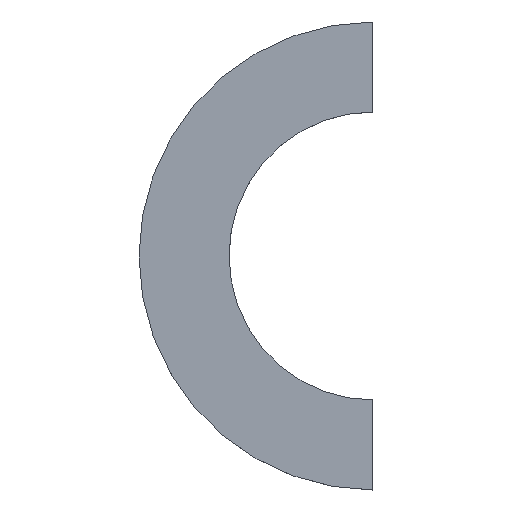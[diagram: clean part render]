
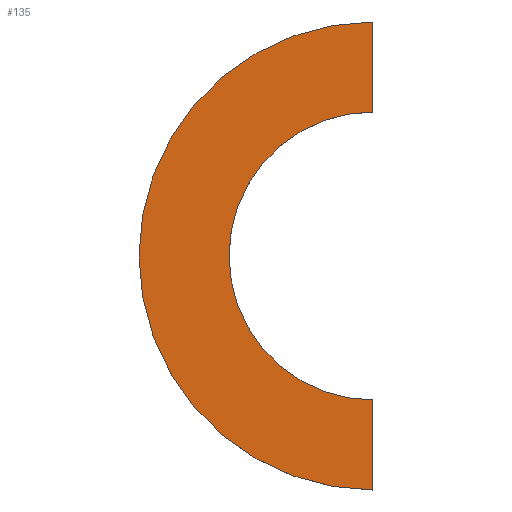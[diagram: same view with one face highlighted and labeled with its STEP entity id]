
A CAD part, top view. The second image highlights one B-rep face of the part: STEP entity #135.
In plain terms, the highlighted planar face has unit normal (0, 0, 1).
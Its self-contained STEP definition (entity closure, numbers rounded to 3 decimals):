
#21 = EDGE_CURVE('',#22,#24,#26,.T.);
#22 = VERTEX_POINT('',#23);
#23 = CARTESIAN_POINT('',(0.,4.9,6.9));
#24 = VERTEX_POINT('',#25);
#25 = CARTESIAN_POINT('',(0.,-4.9,6.9));
#26 = SURFACE_CURVE('',#27,(#32,#44),.PCURVE_S1.);
#27 = CIRCLE('',#28,4.9);
#28 = AXIS2_PLACEMENT_3D('',#29,#30,#31);
#29 = CARTESIAN_POINT('',(0.,0.,6.9));
#30 = DIRECTION('',(0.,0.,1.));
#31 = DIRECTION('',(1.,0.,-0.));
#32 = PCURVE('',#33,#38);
#33 = CYLINDRICAL_SURFACE('',#34,4.9);
#34 = AXIS2_PLACEMENT_3D('',#35,#36,#37);
#35 = CARTESIAN_POINT('',(0.,0.,6.5));
#36 = DIRECTION('',(0.,0.,1.));
#37 = DIRECTION('',(1.,0.,-0.));
#38 = DEFINITIONAL_REPRESENTATION('',(#39),#43);
#39 = LINE('',#40,#41);
#40 = CARTESIAN_POINT('',(0.,0.4));
#41 = VECTOR('',#42,1.);
#42 = DIRECTION('',(1.,0.));
#43 = ( GEOMETRIC_REPRESENTATION_CONTEXT(2) 
PARAMETRIC_REPRESENTATION_CONTEXT() REPRESENTATION_CONTEXT('2D SPACE',''
  ) );
#44 = PCURVE('',#45,#50);
#45 = PLANE('',#46);
#46 = AXIS2_PLACEMENT_3D('',#47,#48,#49);
#47 = CARTESIAN_POINT('',(0.,0.,6.9));
#48 = DIRECTION('',(0.,0.,1.));
#49 = DIRECTION('',(1.,0.,-0.));
#50 = DEFINITIONAL_REPRESENTATION('',(#51),#55);
#51 = CIRCLE('',#52,4.9);
#52 = AXIS2_PLACEMENT_2D('',#53,#54);
#53 = CARTESIAN_POINT('',(0.,0.));
#54 = DIRECTION('',(1.,0.));
#55 = ( GEOMETRIC_REPRESENTATION_CONTEXT(2) 
PARAMETRIC_REPRESENTATION_CONTEXT() REPRESENTATION_CONTEXT('2D SPACE',''
  ) );
#72 = PLANE('',#73);
#73 = AXIS2_PLACEMENT_3D('',#74,#75,#76);
#74 = CARTESIAN_POINT('',(0.,-50.,-50.));
#75 = DIRECTION('',(1.,0.,0.));
#76 = DIRECTION('',(0.,0.,1.));
#125 = PLANE('',#126);
#126 = AXIS2_PLACEMENT_3D('',#127,#128,#129);
#127 = CARTESIAN_POINT('',(0.,-50.,-50.));
#128 = DIRECTION('',(1.,0.,0.));
#129 = DIRECTION('',(0.,0.,1.));
#135 = ADVANCED_FACE('',(#136),#45,.T.);
#136 = FACE_BOUND('',#137,.T.);
#137 = EDGE_LOOP('',(#138,#159,#160,#181));
#138 = ORIENTED_EDGE('',*,*,#139,.T.);
#139 = EDGE_CURVE('',#140,#22,#142,.T.);
#140 = VERTEX_POINT('',#141);
#141 = CARTESIAN_POINT('',(0.,3.015,6.9));
#142 = SURFACE_CURVE('',#143,(#147,#153),.PCURVE_S1.);
#143 = LINE('',#144,#145);
#144 = CARTESIAN_POINT('',(0.,-25.,6.9));
#145 = VECTOR('',#146,1.);
#146 = DIRECTION('',(0.,1.,0.));
#147 = PCURVE('',#45,#148);
#148 = DEFINITIONAL_REPRESENTATION('',(#149),#152);
#149 = B_SPLINE_CURVE_WITH_KNOTS('',1,(#150,#151),.UNSPECIFIED.,.F.,.F.,
  (2,2),(20.1,29.9),.PIECEWISE_BEZIER_KNOTS.);
#150 = CARTESIAN_POINT('',(0.,-4.9));
#151 = CARTESIAN_POINT('',(0.,4.9));
#152 = ( GEOMETRIC_REPRESENTATION_CONTEXT(2) 
PARAMETRIC_REPRESENTATION_CONTEXT() REPRESENTATION_CONTEXT('2D SPACE',''
  ) );
#153 = PCURVE('',#72,#154);
#154 = DEFINITIONAL_REPRESENTATION('',(#155),#158);
#155 = B_SPLINE_CURVE_WITH_KNOTS('',1,(#156,#157),.UNSPECIFIED.,.F.,.F.,
  (2,2),(20.1,29.9),.PIECEWISE_BEZIER_KNOTS.);
#156 = CARTESIAN_POINT('',(56.9,-45.1));
#157 = CARTESIAN_POINT('',(56.9,-54.9));
#158 = ( GEOMETRIC_REPRESENTATION_CONTEXT(2) 
PARAMETRIC_REPRESENTATION_CONTEXT() REPRESENTATION_CONTEXT('2D SPACE',''
  ) );
#159 = ORIENTED_EDGE('',*,*,#21,.T.);
#160 = ORIENTED_EDGE('',*,*,#161,.T.);
#161 = EDGE_CURVE('',#24,#162,#164,.T.);
#162 = VERTEX_POINT('',#163);
#163 = CARTESIAN_POINT('',(0.,-3.015,6.9));
#164 = SURFACE_CURVE('',#165,(#169,#175),.PCURVE_S1.);
#165 = LINE('',#166,#167);
#166 = CARTESIAN_POINT('',(0.,-25.,6.9));
#167 = VECTOR('',#168,1.);
#168 = DIRECTION('',(0.,1.,0.));
#169 = PCURVE('',#45,#170);
#170 = DEFINITIONAL_REPRESENTATION('',(#171),#174);
#171 = B_SPLINE_CURVE_WITH_KNOTS('',1,(#172,#173),.UNSPECIFIED.,.F.,.F.,
  (2,2),(20.1,29.9),.PIECEWISE_BEZIER_KNOTS.);
#172 = CARTESIAN_POINT('',(0.,-4.9));
#173 = CARTESIAN_POINT('',(0.,4.9));
#174 = ( GEOMETRIC_REPRESENTATION_CONTEXT(2) 
PARAMETRIC_REPRESENTATION_CONTEXT() REPRESENTATION_CONTEXT('2D SPACE',''
  ) );
#175 = PCURVE('',#125,#176);
#176 = DEFINITIONAL_REPRESENTATION('',(#177),#180);
#177 = B_SPLINE_CURVE_WITH_KNOTS('',1,(#178,#179),.UNSPECIFIED.,.F.,.F.,
  (2,2),(20.1,29.9),.PIECEWISE_BEZIER_KNOTS.);
#178 = CARTESIAN_POINT('',(56.9,-45.1));
#179 = CARTESIAN_POINT('',(56.9,-54.9));
#180 = ( GEOMETRIC_REPRESENTATION_CONTEXT(2) 
PARAMETRIC_REPRESENTATION_CONTEXT() REPRESENTATION_CONTEXT('2D SPACE',''
  ) );
#181 = ORIENTED_EDGE('',*,*,#182,.F.);
#182 = EDGE_CURVE('',#140,#162,#183,.T.);
#183 = SURFACE_CURVE('',#184,(#189,#196),.PCURVE_S1.);
#184 = CIRCLE('',#185,3.015);
#185 = AXIS2_PLACEMENT_3D('',#186,#187,#188);
#186 = CARTESIAN_POINT('',(0.,0.,6.9));
#187 = DIRECTION('',(0.,0.,1.));
#188 = DIRECTION('',(1.,0.,-0.));
#189 = PCURVE('',#45,#190);
#190 = DEFINITIONAL_REPRESENTATION('',(#191),#195);
#191 = CIRCLE('',#192,3.015);
#192 = AXIS2_PLACEMENT_2D('',#193,#194);
#193 = CARTESIAN_POINT('',(0.,0.));
#194 = DIRECTION('',(1.,0.));
#195 = ( GEOMETRIC_REPRESENTATION_CONTEXT(2) 
PARAMETRIC_REPRESENTATION_CONTEXT() REPRESENTATION_CONTEXT('2D SPACE',''
  ) );
#196 = PCURVE('',#197,#202);
#197 = CYLINDRICAL_SURFACE('',#198,3.015);
#198 = AXIS2_PLACEMENT_3D('',#199,#200,#201);
#199 = CARTESIAN_POINT('',(0.,0.,6.49));
#200 = DIRECTION('',(0.,0.,1.));
#201 = DIRECTION('',(1.,0.,-0.));
#202 = DEFINITIONAL_REPRESENTATION('',(#203),#207);
#203 = LINE('',#204,#205);
#204 = CARTESIAN_POINT('',(0.,0.41));
#205 = VECTOR('',#206,1.);
#206 = DIRECTION('',(1.,0.));
#207 = ( GEOMETRIC_REPRESENTATION_CONTEXT(2) 
PARAMETRIC_REPRESENTATION_CONTEXT() REPRESENTATION_CONTEXT('2D SPACE',''
  ) );
